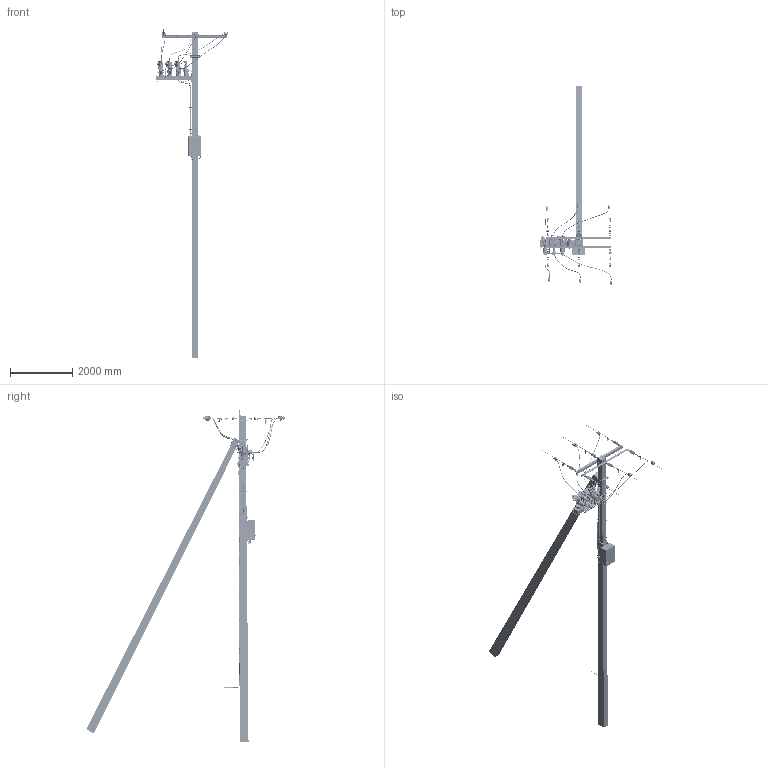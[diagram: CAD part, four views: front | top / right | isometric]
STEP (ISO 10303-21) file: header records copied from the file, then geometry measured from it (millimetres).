
FILE_DESCRIPTION(('STEP AP203'), '1');
FILE_NAME('03_À10+AR12-2', '', ('UNSPECIFIED'), ('UNSPECIFIED'), 'C3D Converter', 'C3D Toolkit', '');
FILE_SCHEMA(('CONFIG_CONTROL_DESIGN'));
Length unit declared in the file: millimetre
Products named in the file (195): 3.17/5-28; Cable Gland PG7-PG19 Body_PG13.5; Cable Gland PG7-PG19 Washer_PG13.5; Cable Gland PG7-PG19 Lock Nut_PG13.5; Cable Gland PG7-PG19 Sleeve_PG13.5; Cable Gland PG7-PG19 Gland Nut_PG13.5; Cable Gland PG7-PG19 Body_PG9; Cable Gland PG7-PG19 Washer_PG9; Cable Gland PG7-PG19 Lock Nut_PG9; Cable Gland PG7-PG19 Sleeve_PG9; Cable Gland PG7-PG19 Gland Nut_PG9; 76_320_0729_0_E; 73_300_0353_0_E; 73_310_0353_0_E
Assembly tree (505 placements, depth 5):
  (unnamed)
    (unnamed)  x2
      (unnamed)
    (unnamed)
    (unnamed)  x6
      (unnamed)
      (unnamed)
      (unnamed)
        (unnamed)
        (unnamed)
      (unnamed)
      (unnamed)
    (unnamed)  x4
      (unnamed)
      (unnamed)
      (unnamed)
      (unnamed)
    (unnamed)  x4
    (unnamed)  x7
    (unnamed)
      (unnamed)  x2
      (unnamed)
      (unnamed)  x6
      (unnamed)  x3
      (unnamed)  x12
      (unnamed)  x6
      (unnamed)  x6
    (unnamed)  x6
      (unnamed)
      (unnamed)
        (unnamed)
        (unnamed)  x2
        (unnamed)  x2
        (unnamed)  x4
        (unnamed)  x4
      (unnamed)
      (unnamed)
      (unnamed)
      (unnamed)
        (unnamed)
        (unnamed)  x2
        (unnamed)  x2
          (unnamed)
    (unnamed)
      (unnamed)
      (unnamed)
      (unnamed)  x3
      (unnamed)  x2
      (unnamed)
      (unnamed)
      (unnamed)  x3
        (unnamed)
        (unnamed)
        (unnamed)
      (unnamed)  x3
        (unnamed)
        (unnamed)
        (unnamed)
      (unnamed)  x3
        (unnamed)
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Bounding box: 2340.46 x 6813.42 x 10690 mm (x, y, z)
Volume: 1001675030.8 mm3; surface area: 33246140.3 mm2
Topology: 797 solids, 906 shells, 25081 faces, 63671 edges, 40883 vertices
Faces by surface type: plane 12441, cylinder 7612, cone 2521, bspline 1348, torus 875, sphere 151, extrusion 73, revolution 60
Full cylindrical faces by diameter (mm): 0.2 x14, 0.3 x14, 1.2 x12, 1.4 x12, 2 x25, 2.013 x1, 2.5 x30, 2.9 x1, 3 x62, 3.1 x4, 3.2 x4, 3.242 x12, 3.3 x12, 3.35 x4, 3.5 x20, 3.627 x2, 3.65 x4, 3.84 x8, 4 x25, 4.134 x8, 4.3 x8, 4.5 x24, 4.7 x1, 4.8 x8, 4.917 x8, 5 x104, 5.007 x2, 5.3 x8, 5.5 x13, 5.56 x8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
Entity records: 686367 total; most frequent: CARTESIAN_POINT 326675, DIRECTION 57354, ORIENTED_EDGE 55359, EDGE_CURVE 27714, AXIS2_PLACEMENT_3D 21316, VERTEX_POINT 19029, VECTOR 14701, LINE 14628
